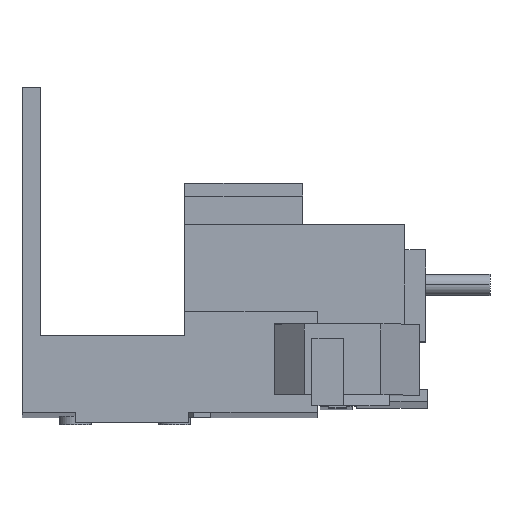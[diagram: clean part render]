
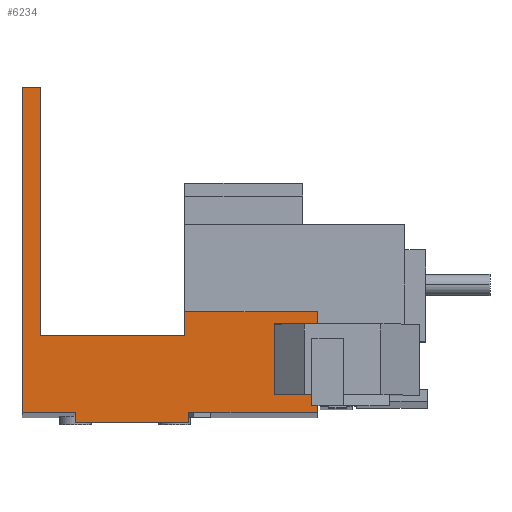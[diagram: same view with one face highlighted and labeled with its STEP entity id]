
A CAD part, front view. The second image highlights one B-rep face of the part: STEP entity #6234.
In plain terms, the highlighted planar face has unit normal (0, -1, 0.002).
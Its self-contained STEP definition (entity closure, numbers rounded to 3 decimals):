
#20 = VECTOR ( 'NONE', #3512, 1000. ) ;
#113 = LINE ( 'NONE', #3496, #406 ) ;
#261 = LINE ( 'NONE', #3510, #20 ) ;
#406 = VECTOR ( 'NONE', #3497, 1000. ) ;
#429 = FACE_OUTER_BOUND ( 'NONE', #5645, .T. ) ;
#619 = AXIS2_PLACEMENT_3D ( 'NONE', #4302, #4310, #4311 ) ;
#930 = ORIENTED_EDGE ( 'NONE', *, *, #6375, .F. ) ;
#934 = ORIENTED_EDGE ( 'NONE', *, *, #1673, .F. ) ;
#990 = VERTEX_POINT ( 'NONE', #5888 ) ;
#1011 = VERTEX_POINT ( 'NONE', #5935 ) ;
#1042 = ORIENTED_EDGE ( 'NONE', *, *, #1701, .F. ) ;
#1047 = ORIENTED_EDGE ( 'NONE', *, *, #1713, .F. ) ;
#1050 = ORIENTED_EDGE ( 'NONE', *, *, #6370, .T. ) ;
#1057 = ORIENTED_EDGE ( 'NONE', *, *, #1712, .F. ) ;
#1063 = ORIENTED_EDGE ( 'NONE', *, *, #1603, .F. ) ;
#1070 = ORIENTED_EDGE ( 'NONE', *, *, #6452, .T. ) ;
#1159 = VERTEX_POINT ( 'NONE', #5960 ) ;
#1173 = ORIENTED_EDGE ( 'NONE', *, *, #1839, .F. ) ;
#1175 = ORIENTED_EDGE ( 'NONE', *, *, #1681, .F. ) ;
#1177 = ORIENTED_EDGE ( 'NONE', *, *, #6384, .F. ) ;
#1206 = ORIENTED_EDGE ( 'NONE', *, *, #1832, .F. ) ;
#1224 = VERTEX_POINT ( 'NONE', #5876 ) ;
#1338 = VERTEX_POINT ( 'NONE', #5893 ) ;
#1603 = EDGE_CURVE ( 'NONE', #1011, #1338, #2623, .T. ) ;
#1673 = EDGE_CURVE ( 'NONE', #990, #1224, #2323, .T. ) ;
#1681 = EDGE_CURVE ( 'NONE', #6090, #6010, #2207, .T. ) ;
#1701 = EDGE_CURVE ( 'NONE', #6046, #5992, #2524, .T. ) ;
#1712 = EDGE_CURVE ( 'NONE', #1159, #1011, #2598, .T. ) ;
#1713 = EDGE_CURVE ( 'NONE', #5992, #1159, #2721, .T. ) ;
#1832 = EDGE_CURVE ( 'NONE', #1224, #6071, #113, .T. ) ;
#1839 = EDGE_CURVE ( 'NONE', #6071, #6090, #261, .T. ) ;
#2078 = VECTOR ( 'NONE', #3123, 1000. ) ;
#2207 = LINE ( 'NONE', #3129, #2460 ) ;
#2266 = VECTOR ( 'NONE', #2997, 1000. ) ;
#2323 = LINE ( 'NONE', #3136, #2078 ) ;
#2460 = VECTOR ( 'NONE', #3158, 1000. ) ;
#2524 = LINE ( 'NONE', #3180, #2774 ) ;
#2598 = LINE ( 'NONE', #3222, #2667 ) ;
#2623 = LINE ( 'NONE', #2987, #2266 ) ;
#2667 = VECTOR ( 'NONE', #3223, 1000. ) ;
#2721 = LINE ( 'NONE', #3224, #2727 ) ;
#2727 = VECTOR ( 'NONE', #3226, 1000. ) ;
#2774 = VECTOR ( 'NONE', #3201, 1000. ) ;
#2987 = CARTESIAN_POINT ( 'NONE',  ( 0., -33.075, -35.931 ) ) ;
#2997 = DIRECTION ( 'NONE',  ( -1., 0., 0. ) ) ;
#3123 = DIRECTION ( 'NONE',  ( -1., 0., 0. ) ) ;
#3129 = CARTESIAN_POINT ( 'NONE',  ( 2.55, -33.072, -34.474 ) ) ;
#3136 = CARTESIAN_POINT ( 'NONE',  ( 0., -33.075, -35.931 ) ) ;
#3158 = DIRECTION ( 'NONE',  ( 0., -0.002, -1. ) ) ;
#3180 = CARTESIAN_POINT ( 'NONE',  ( 22.92, -33.046, -21.831 ) ) ;
#3201 = DIRECTION ( 'NONE',  ( 0., 0.002, 1. ) ) ;
#3222 = CARTESIAN_POINT ( 'NONE',  ( 41.6, -33.075, -35.931 ) ) ;
#3223 = DIRECTION ( 'NONE',  ( 0., -0.002, -1. ) ) ;
#3224 = CARTESIAN_POINT ( 'NONE',  ( 41.6, -33.046, -21.831 ) ) ;
#3226 = DIRECTION ( 'NONE',  ( 1., 0., 0. ) ) ;
#3496 = CARTESIAN_POINT ( 'NONE',  ( 0., -32.98, 9.819 ) ) ;
#3497 = DIRECTION ( 'NONE',  ( 0., 0.002, 1. ) ) ;
#3510 = CARTESIAN_POINT ( 'NONE',  ( 2.55, -32.98, 9.819 ) ) ;
#3512 = DIRECTION ( 'NONE',  ( 1., 0., 0. ) ) ;
#3892 = CARTESIAN_POINT ( 'NONE',  ( 22.92, -33.046, -21.831 ) ) ;
#3905 = CARTESIAN_POINT ( 'NONE',  ( 2.55, -33.053, -25.181 ) ) ;
#3911 = CARTESIAN_POINT ( 'NONE',  ( 7.5, -33.078, -37.431 ) ) ;
#3925 = CARTESIAN_POINT ( 'NONE',  ( 22.92, -33.053, -25.181 ) ) ;
#3936 = CARTESIAN_POINT ( 'NONE',  ( 23.5, -33.078, -37.431 ) ) ;
#3952 = CARTESIAN_POINT ( 'NONE',  ( 0., -32.98, 9.819 ) ) ;
#3966 = CARTESIAN_POINT ( 'NONE',  ( 2.55, -32.98, 9.819 ) ) ;
#4302 = CARTESIAN_POINT ( 'NONE',  ( 0., -33.075, -35.931 ) ) ;
#4307 = PLANE ( 'NONE',  #619 ) ;
#4310 = DIRECTION ( 'NONE',  ( 0., 1., -0.002 ) ) ;
#4311 = DIRECTION ( 'NONE',  ( 1., 0., 0. ) ) ;
#4733 = DIRECTION ( 'NONE',  ( 1., 0., 0. ) ) ;
#4739 = CARTESIAN_POINT ( 'NONE',  ( 7.5, -33.078, -37.431 ) ) ;
#4748 = DIRECTION ( 'NONE',  ( 0., 0.002, 1. ) ) ;
#4752 = CARTESIAN_POINT ( 'NONE',  ( 7.5, -33.078, -37.431 ) ) ;
#4774 = CARTESIAN_POINT ( 'NONE',  ( 1.75, -33.053, -25.181 ) ) ;
#4779 = DIRECTION ( 'NONE',  ( 1., 0., 0. ) ) ;
#4933 = CARTESIAN_POINT ( 'NONE',  ( 23.5, -33.078, -37.431 ) ) ;
#4943 = DIRECTION ( 'NONE',  ( 0., 0.002, 1. ) ) ;
#5169 = VECTOR ( 'NONE', #4943, 1000. ) ;
#5171 = LINE ( 'NONE', #4933, #5169 ) ;
#5322 = VECTOR ( 'NONE', #4779, 1000. ) ;
#5340 = LINE ( 'NONE', #4774, #5322 ) ;
#5358 = VECTOR ( 'NONE', #4733, 1000. ) ;
#5364 = LINE ( 'NONE', #4752, #5383 ) ;
#5383 = VECTOR ( 'NONE', #4748, 1000. ) ;
#5394 = LINE ( 'NONE', #4739, #5358 ) ;
#5645 = EDGE_LOOP ( 'NONE', ( #1177, #1175, #1173, #1206, #934, #930, #1050, #1070, #1063, #1057, #1047, #1042 ) ) ;
#5876 = CARTESIAN_POINT ( 'NONE',  ( 0., -33.075, -35.931 ) ) ;
#5888 = CARTESIAN_POINT ( 'NONE',  ( 7.5, -33.075, -35.931 ) ) ;
#5893 = CARTESIAN_POINT ( 'NONE',  ( 23.5, -33.075, -35.931 ) ) ;
#5935 = CARTESIAN_POINT ( 'NONE',  ( 41.6, -33.075, -35.931 ) ) ;
#5960 = CARTESIAN_POINT ( 'NONE',  ( 41.6, -33.046, -21.831 ) ) ;
#5992 = VERTEX_POINT ( 'NONE', #3892 ) ;
#6010 = VERTEX_POINT ( 'NONE', #3905 ) ;
#6019 = VERTEX_POINT ( 'NONE', #3911 ) ;
#6046 = VERTEX_POINT ( 'NONE', #3925 ) ;
#6053 = VERTEX_POINT ( 'NONE', #3936 ) ;
#6071 = VERTEX_POINT ( 'NONE', #3952 ) ;
#6090 = VERTEX_POINT ( 'NONE', #3966 ) ;
#6234 = ADVANCED_FACE ( 'NONE', ( #429 ), #4307, .F. ) ;
#6370 = EDGE_CURVE ( 'NONE', #6019, #6053, #5394, .T. ) ;
#6375 = EDGE_CURVE ( 'NONE', #6019, #990, #5364, .T. ) ;
#6384 = EDGE_CURVE ( 'NONE', #6010, #6046, #5340, .T. ) ;
#6452 = EDGE_CURVE ( 'NONE', #6053, #1338, #5171, .T. ) ;
